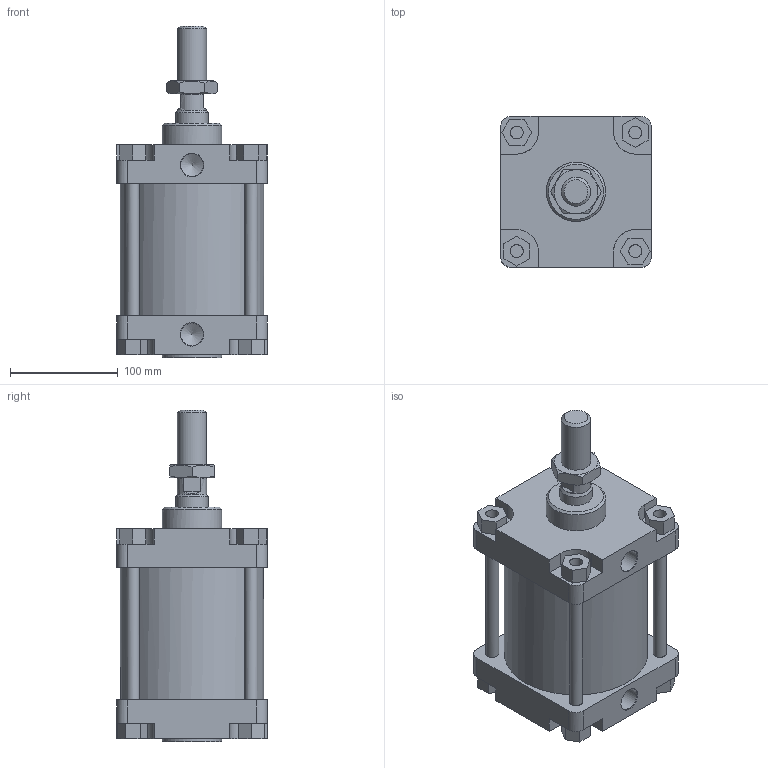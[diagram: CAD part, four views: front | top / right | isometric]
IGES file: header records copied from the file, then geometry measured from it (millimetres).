
Global section: file name: 1303_125_0050_01A; native system: Autodesk Inventor 2014; preprocessor: unknown; author: A. Manieri; date: 20161124.141357; units: millimetre
Bounding box: 140 x 140 x 308 mm (x, y, z)
Volume: 2592274.1 mm3; surface area: 342852.5 mm2
Topology: 9 solids, 9 shells, 175 faces, 440 edges, 295 vertices
Faces by surface type: bspline 175
